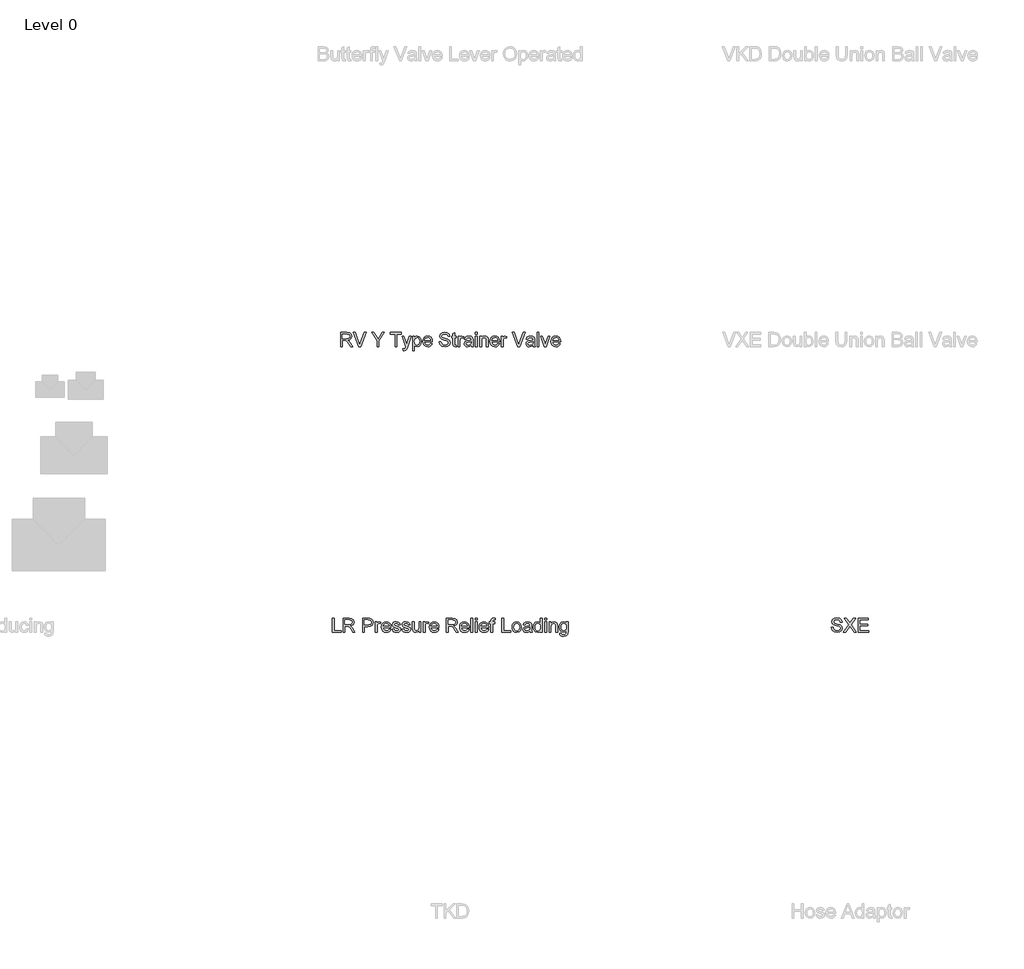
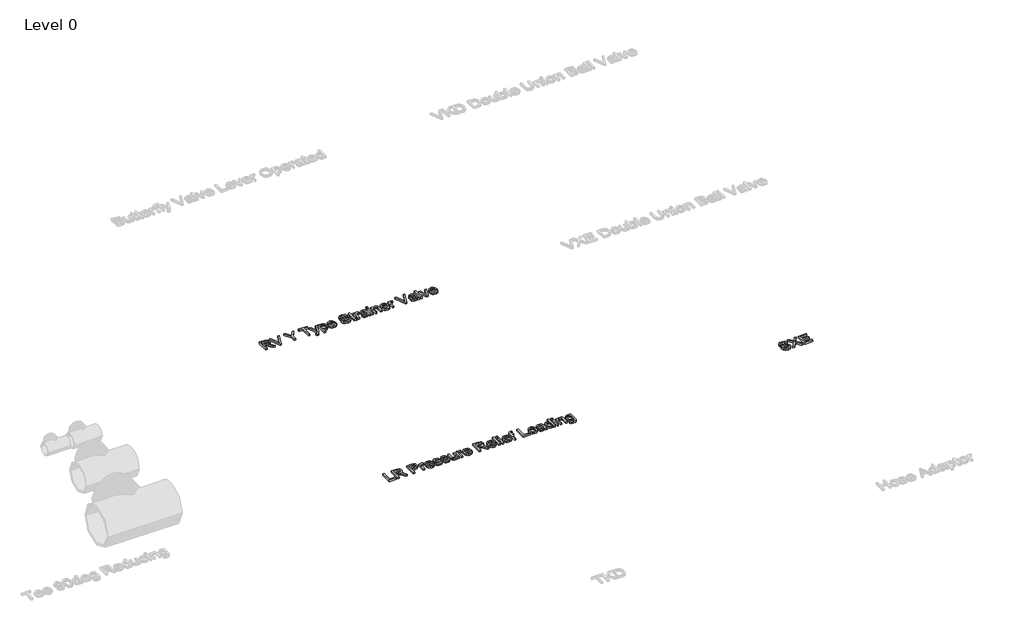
# One storey, part 9 of 12: 3 proxies.
"""IFC4 building model written with IfcOpenShell, lengths in millimetres."""

from ifc_helpers import new_model, si_unit, origin, origin_with_axes, place, context, project, spatial, polyline, outline, extrude, element, save

model = new_model("IFC4")

# Units and contexts
model_context = context("Model", 3, world=origin())
ifc_project = project(units=[si_unit("LENGTHUNIT", "METRE", prefix="MILLI")], contexts=[model_context])

# Site, building, storey
site = spatial("IfcSite", under=ifc_project)
building = spatial("IfcBuilding", under=site)
storey = spatial("IfcBuildingStorey", under=building, Name="Level 0", Elevation=0.0)

# Proxies
placement = place(None, origin())
element("IfcBuildingElementProxy", 1, Name="150mm Arial", ObjectType="150mm Arial", at=placement, inside=storey, context=model_context, shape_type="SweptSolid", body=[
    extrude(outline(polyline([(-8002.5823304, 6945.7253457), (-8002.5823304, 7044.1868842), (-7960.1544458, 7044.1868842), (-7940.4549266, 7041.5306342), (-7929.6856958, 7032.1315957), (-7925.6592535, 7017.2397688), (-7927.3269218, 7007.5402496), (-7932.3299266, 6999.4993842), (-7940.8185083, 6993.6039515), (-7952.9429073, 6990.3407304), (-7945.947715, 6985.0763073), (-7935.9717535, 6972.408038), (-7919.5534843, 6945.7253457), (-7933.8563689, 6945.7253457), (-7946.6688689, 6966.1339996), (-7955.9236766, 6979.643615), (-7962.4260804, 6986.0258265), (-7968.2794458, 6988.3695765), (-7975.4188689, 6988.8022688), (-7990.2746381, 6988.8022688), (-7990.2746381, 6945.7253457), (-8002.5823304, 6945.7253457)]), holes=[polyline([(-7990.2746381, 7001.1099611), (-7962.7265612, 7001.1099611), (-7948.6760804, 7002.8527496), (-7940.6953112, 7008.4296727), (-7937.9669458, 7016.783038), (-7943.1712727, 7027.6243842), (-7959.6255996, 7031.8791919), (-7990.2746381, 7031.8791919), (-7990.2746381, 7001.1099611)])]), origin_with_axes(), (0.0, 0.0, 1.0), 15.0),
    extrude(outline(polyline([(-7875.0342535, 6945.7253457), (-7914.2169458, 7044.1868842), (-7901.0438689, 7044.1868842), (-7874.8179073, 6973.2493842), (-7869.5054073, 6957.2638073), (-7864.2650227, 6973.2493842), (-7837.9669458, 7044.1868842), (-7824.7938689, 7044.1868842), (-7862.3179073, 6945.7253457), (-7875.0342535, 6945.7253457)])), origin_with_axes(), (0.0, 0.0, 1.0), 15.0),
    extrude(outline(polyline([(-7747.197715, 6945.7253457), (-7747.197715, 6987.4320765), (-7785.6592535, 7044.1868842), (-7771.1400227, 7044.1868842), (-7750.6111766, 7013.8743842), (-7740.1063689, 6998.4176534), (-7729.5775227, 7014.9801534), (-7710.947715, 7044.1868842), (-7696.4284843, 7044.1868842), (-7734.8900227, 6987.4320765), (-7734.8900227, 6945.7253457), (-7747.197715, 6945.7253457)])), origin_with_axes(), (0.0, 0.0, 1.0), 15.0),
    extrude(outline(polyline([(-7622.5823304, 6945.7253457), (-7622.5823304, 7031.8791919), (-7654.8900227, 7031.8791919), (-7654.8900227, 7044.1868842), (-7577.9669458, 7044.1868842), (-7577.9669458, 7031.8791919), (-7610.2746381, 7031.8791919), (-7610.2746381, 6945.7253457), (-7622.5823304, 6945.7253457)])), origin_with_axes(), (0.0, 0.0, 1.0), 15.0),
    extrude(outline(polyline([(-7565.6592535, 6918.033038), (-7567.197715, 6929.8839996), (-7560.947715, 6928.8022688), (-7555.1063689, 6930.1604419), (-7551.5246381, 6933.9464996), (-7548.1592535, 6943.0089996), (-7547.197715, 6945.9897688), (-7573.3515612, 7018.033038), (-7560.3707919, 7018.033038), (-7546.5005996, 6977.8888073), (-7541.6688689, 6961.831115), (-7536.8371381, 6976.0138073), (-7522.5823304, 7018.033038), (-7509.697715, 7018.033038), (-7534.8659843, 6943.9945765), (-7541.4044458, 6927.9368842), (-7548.5438689, 6919.2589996), (-7558.135215, 6916.4945765), (-7565.6592535, 6918.033038)])), origin_with_axes(), (0.0, 0.0, 1.0), 15.0),
    extrude(outline(polyline([(-7499.5054073, 6918.033038), (-7499.5054073, 7018.033038), (-7487.197715, 7018.033038), (-7487.197715, 7005.9657304), (-7478.6880996, 7016.1700573), (-7467.197715, 7019.5714996), (-7451.5967535, 7014.8118842), (-7441.4044458, 7001.3984227), (-7437.9669458, 6982.4320765), (-7441.8491573, 6962.4921727), (-7453.1231958, 6948.9104419), (-7468.6880996, 6944.1868842), (-7479.3972343, 6947.3479419), (-7487.197715, 6955.3407304), (-7487.197715, 6918.033038), (-7499.5054073, 6918.033038)]), holes=[polyline([(-7487.197715, 6981.3022688), (-7485.8665852, 6970.268615), (-7481.8731958, 6962.5522688), (-7475.9807679, 6958.0089996), (-7468.9525227, 6956.4945765), (-7461.8100948, 6958.0630861), (-7455.7674266, 6962.768615), (-7451.6478352, 6970.767413), (-7450.2746381, 6982.2157304), (-7451.6147823, 6993.189288), (-7455.635215, 7001.0138073), (-7461.5186285, 7005.7013073), (-7468.447715, 7007.2638073), (-7475.4038448, 7005.6021486), (-7481.5126189, 7000.6171727), (-7485.776441, 6992.4651294), (-7487.197715, 6981.3022688)])]), origin_with_axes(), (0.0, 0.0, 1.0), 15.0),
    extrude(outline(polyline([(-7373.4957919, 6967.2638073), (-7361.4284843, 6965.7253457), (-7365.776441, 6956.6327977), (-7372.7145419, 6949.8359227), (-7382.0865371, 6945.5991438), (-7393.7361766, 6944.1868842), (-7408.1772823, 6946.6237832), (-7419.2890612, 6953.9344804), (-7426.3743977, 6965.6442159), (-7428.7361766, 6981.2782304), (-7426.3503593, 6997.4380861), (-7419.1929073, 7009.5234227), (-7408.2313689, 7017.0594804), (-7394.4332919, 7019.5714996), (-7381.0649025, 7017.06549), (-7370.3828112, 7009.5474611), (-7363.3786044, 6997.486163), (-7361.0438689, 6981.3503457), (-7361.1159843, 6978.033038), (-7416.4284843, 6978.033038), (-7414.2980756, 6968.8202977), (-7409.3491573, 6962.0474611), (-7393.4957919, 6956.4945765), (-7381.4284843, 6959.0666919), (-7373.4957919, 6967.2638073)]), holes=[polyline([(-7416.4284843, 6990.3407304), (-7373.3515612, 6990.3407304), (-7378.2794458, 7001.4945765), (-7385.4549266, 7005.8214996), (-7394.4813689, 7007.2638073), (-7409.6376189, 7002.6604419), (-7416.4284843, 6990.3407304)])]), origin_with_axes(), (0.0, 0.0, 1.0), 15.0),
    extrude(outline(polyline([(-7313.3515612, 6979.5714996), (-7301.0438689, 6979.5714996), (-7297.0775227, 6967.251788), (-7287.3900227, 6959.4633265), (-7272.6304073, 6956.4945765), (-7259.7698304, 6958.7421727), (-7251.4645419, 6964.9200573), (-7248.7361766, 6973.1772688), (-7250.7794458, 6980.8575573), (-7259.1448304, 6986.4464996), (-7277.0655035, 6991.1460188), (-7296.3563689, 6997.2157304), (-7306.8251189, 7006.3743842), (-7310.2746381, 7018.6099611), (-7306.0078112, 7032.5402496), (-7293.5438689, 7042.3719804), (-7275.2986766, 7045.7253457), (-7255.8275227, 7042.2157304), (-7242.8467535, 7031.9032304), (-7237.9669458, 7016.4945765), (-7250.2746381, 7016.4945765), (-7257.2457919, 7029.1388073), (-7274.8179073, 7033.4176534), (-7292.4380996, 7029.1868842), (-7297.9669458, 7018.970538), (-7294.0486766, 7010.4368842), (-7273.9525227, 7003.5618842), (-7252.1736766, 6997.3839996), (-7240.2626189, 6987.408038), (-7236.4284843, 6973.4897688), (-7240.8395419, 6958.7662111), (-7253.5318496, 6948.0210188), (-7272.1496381, 6944.1868842), (-7294.1328112, 6948.3214996), (-7308.0390612, 6960.7734227), (-7313.3515612, 6979.5714996)])), origin_with_axes(), (0.0, 0.0, 1.0), 15.0),
    extrude(outline(polyline([(-7193.3515612, 6955.9897688), (-7191.8130996, 6945.3647688), (-7201.0198304, 6944.1868842), (-7211.3323304, 6946.2301534), (-7216.4765612, 6951.5907304), (-7217.9669458, 6965.5570765), (-7217.9669458, 7005.7253457), (-7227.197715, 7005.7253457), (-7227.197715, 7018.033038), (-7217.9669458, 7018.033038), (-7217.9669458, 7035.6051534), (-7205.6592535, 7042.8407304), (-7205.6592535, 7018.033038), (-7193.3515612, 7018.033038), (-7193.3515612, 7005.7253457), (-7205.6592535, 7005.7253457), (-7205.6592535, 6965.9176534), (-7205.010215, 6959.5714996), (-7202.9068496, 6957.3239034), (-7198.7121381, 6956.4945765), (-7193.3515612, 6955.9897688)])), origin_with_axes(), (0.0, 0.0, 1.0), 15.0),
    extrude(outline(polyline([(-7181.0438689, 6945.7253457), (-7181.0438689, 7018.033038), (-7170.2746381, 7018.033038), (-7170.2746381, 7007.3359227), (-7162.6304073, 7017.1916919), (-7154.9380996, 7019.5714996), (-7142.5823304, 7015.7734227), (-7146.6929073, 7004.7397688), (-7155.3467535, 7007.2638073), (-7162.3058881, 7004.8359227), (-7166.7409843, 6998.1051534), (-7168.7361766, 6983.7301534), (-7168.7361766, 6945.7253457), (-7181.0438689, 6945.7253457)])), origin_with_axes(), (0.0, 0.0, 1.0), 15.0),
    extrude(outline(polyline([(-7088.7361766, 6954.956115), (-7100.6712727, 6946.6147688), (-7113.8563689, 6944.1868842), (-7124.1418256, 6945.6472207), (-7131.728965, 6950.0282304), (-7136.4074506, 6956.6808746), (-7137.9669458, 6964.956115), (-7135.6111766, 6974.6916919), (-7129.4212727, 6981.7589996), (-7120.8034843, 6985.7974611), (-7110.1544458, 6987.6484227), (-7088.8082919, 6991.8791919), (-7088.7361766, 6994.6195765), (-7092.1255996, 7003.706115), (-7105.7313689, 7007.2638073), (-7118.1832919, 7004.8960188), (-7124.1207919, 6996.4945765), (-7136.4284843, 6998.033038), (-7131.103965, 7010.0522688), (-7120.3828112, 7017.095538), (-7104.1448304, 7019.5714996), (-7089.228965, 7017.3839996), (-7080.8034843, 7011.8912111), (-7077.0294458, 7003.5378457), (-7076.4284843, 6992.768615), (-7076.4284843, 6977.456115), (-7075.8034843, 6956.0739034), (-7073.3515612, 6945.7253457), (-7085.6592535, 6945.7253457), (-7088.7361766, 6954.956115)]), holes=[polyline([(-7088.7361766, 6979.5714996), (-7108.5919458, 6975.7974611), (-7119.1808881, 6973.8022688), (-7123.9765612, 6970.5570765), (-7125.6592535, 6965.8214996), (-7121.9933881, 6959.1628457), (-7111.2361766, 6956.4945765), (-7098.7842535, 6959.439288), (-7090.7554073, 6966.5666919), (-7088.8082919, 6976.0859227), (-7088.7361766, 6979.5714996)])]), origin_with_axes(), (0.0, 0.0, 1.0), 15.0),
    extrude(outline(polyline([(-7059.5054073, 6945.7253457), (-7059.5054073, 7018.033038), (-7047.197715, 7018.033038), (-7047.197715, 6945.7253457), (-7059.5054073, 6945.7253457)])), origin_with_axes(), (0.0, 0.0, 1.0), 15.0),
    extrude(outline(polyline([(-7059.5054073, 7031.8791919), (-7059.5054073, 7044.1868842), (-7047.197715, 7044.1868842), (-7047.197715, 7031.8791919), (-7059.5054073, 7031.8791919)])), origin_with_axes(), (0.0, 0.0, 1.0), 15.0),
    extrude(outline(polyline([(-7028.7361766, 6945.7253457), (-7028.7361766, 7018.033038), (-7016.4284843, 7018.033038), (-7016.4284843, 7007.9368842), (-7007.0174266, 7016.6628457), (-6994.1688689, 7019.5714996), (-6982.5462727, 7017.2277496), (-6974.6135804, 7011.0739034), (-6970.9236766, 7002.0234227), (-6970.2746381, 6990.1243842), (-6970.2746381, 6945.7253457), (-6982.5823304, 6945.7253457), (-6982.5823304, 6988.4657304), (-6984.0005996, 6999.3551534), (-6989.0126189, 7005.112365), (-6997.4621381, 7007.2638073), (-7010.8155035, 7002.4320765), (-7015.0252391, 6995.4308746), (-7016.4284843, 6984.0907304), (-7016.4284843, 6945.7253457), (-7028.7361766, 6945.7253457)])), origin_with_axes(), (0.0, 0.0, 1.0), 15.0),
    extrude(outline(polyline([(-6902.7265612, 6967.2638073), (-6890.6592535, 6965.7253457), (-6895.0072102, 6956.6327977), (-6901.9453112, 6949.8359227), (-6911.3173064, 6945.5991438), (-6922.9669458, 6944.1868842), (-6937.4080516, 6946.6237832), (-6948.5198304, 6953.9344804), (-6955.6051669, 6965.6442159), (-6957.9669458, 6981.2782304), (-6955.5811285, 6997.4380861), (-6948.4236766, 7009.5234227), (-6937.4621381, 7017.0594804), (-6923.6640612, 7019.5714996), (-6910.2956718, 7017.06549), (-6899.6135804, 7009.5474611), (-6892.6093737, 6997.486163), (-6890.2746381, 6981.3503457), (-6890.3467535, 6978.033038), (-6945.6592535, 6978.033038), (-6943.5288448, 6968.8202977), (-6938.5799266, 6962.0474611), (-6922.7265612, 6956.4945765), (-6910.6592535, 6959.0666919), (-6902.7265612, 6967.2638073)]), holes=[polyline([(-6945.6592535, 6990.3407304), (-6902.5823304, 6990.3407304), (-6907.510215, 7001.4945765), (-6914.6856958, 7005.8214996), (-6923.7121381, 7007.2638073), (-6938.8683881, 7002.6604419), (-6945.6592535, 6990.3407304)])]), origin_with_axes(), (0.0, 0.0, 1.0), 15.0),
    extrude(outline(polyline([(-6877.9669458, 6945.7253457), (-6877.9669458, 7018.033038), (-6867.197715, 7018.033038), (-6867.197715, 7007.3359227), (-6859.5534843, 7017.1916919), (-6851.8611766, 7019.5714996), (-6839.5054073, 7015.7734227), (-6843.6159843, 7004.7397688), (-6852.2698304, 7007.2638073), (-6859.228965, 7004.8359227), (-6863.6640612, 6998.1051534), (-6865.6592535, 6983.7301534), (-6865.6592535, 6945.7253457), (-6877.9669458, 6945.7253457)])), origin_with_axes(), (0.0, 0.0, 1.0), 15.0),
    extrude(outline(polyline([(-6762.7265612, 6945.7253457), (-6801.9092535, 7044.1868842), (-6788.7361766, 7044.1868842), (-6762.510215, 6973.2493842), (-6757.197715, 6957.2638073), (-6751.9573304, 6973.2493842), (-6725.6592535, 7044.1868842), (-6712.4861766, 7044.1868842), (-6750.010215, 6945.7253457), (-6762.7265612, 6945.7253457)])), origin_with_axes(), (0.0, 0.0, 1.0), 15.0),
    extrude(outline(polyline([(-6656.4284843, 6954.956115), (-6668.3635804, 6946.6147688), (-6681.5486766, 6944.1868842), (-6691.8341333, 6945.6472207), (-6699.4212727, 6950.0282304), (-6704.0997583, 6956.6808746), (-6705.6592535, 6964.956115), (-6703.3034843, 6974.6916919), (-6697.1135804, 6981.7589996), (-6688.4957919, 6985.7974611), (-6677.8467535, 6987.6484227), (-6656.5005996, 6991.8791919), (-6656.4284843, 6994.6195765), (-6659.8179073, 7003.706115), (-6673.4236766, 7007.2638073), (-6685.8755996, 7004.8960188), (-6691.8130996, 6996.4945765), (-6704.1207919, 6998.033038), (-6698.7962727, 7010.0522688), (-6688.0751189, 7017.095538), (-6671.8371381, 7019.5714996), (-6656.9212727, 7017.3839996), (-6648.4957919, 7011.8912111), (-6644.7217535, 7003.5378457), (-6644.1207919, 6992.768615), (-6644.1207919, 6977.456115), (-6643.4957919, 6956.0739034), (-6641.0438689, 6945.7253457), (-6653.3515612, 6945.7253457), (-6656.4284843, 6954.956115)]), holes=[polyline([(-6656.4284843, 6979.5714996), (-6676.2842535, 6975.7974611), (-6686.8731958, 6973.8022688), (-6691.6688689, 6970.5570765), (-6693.3515612, 6965.8214996), (-6689.6856958, 6959.1628457), (-6678.9284843, 6956.4945765), (-6666.4765612, 6959.439288), (-6658.447715, 6966.5666919), (-6656.5005996, 6976.0859227), (-6656.4284843, 6979.5714996)])]), origin_with_axes(), (0.0, 0.0, 1.0), 15.0),
    extrude(outline(polyline([(-6627.197715, 6945.7253457), (-6627.197715, 7044.1868842), (-6614.8900227, 7044.1868842), (-6614.8900227, 6945.7253457), (-6627.197715, 6945.7253457)])), origin_with_axes(), (0.0, 0.0, 1.0), 15.0),
    extrude(outline(polyline([(-6578.6880996, 6945.7253457), (-6604.1207919, 7018.033038), (-6591.0919458, 7018.033038), (-6575.6832919, 6974.7157304), (-6571.0438689, 6960.1484227), (-6566.5005996, 6973.8984227), (-6550.9957919, 7018.033038), (-6537.9669458, 7018.033038), (-6563.0871381, 6945.7253457), (-6578.6880996, 6945.7253457)])), origin_with_axes(), (0.0, 0.0, 1.0), 15.0),
    extrude(outline(polyline([(-6476.572715, 6967.2638073), (-6464.5054073, 6965.7253457), (-6468.8533641, 6956.6327977), (-6475.791465, 6949.8359227), (-6485.1634602, 6945.5991438), (-6496.8130996, 6944.1868842), (-6511.2542054, 6946.6237832), (-6522.3659843, 6953.9344804), (-6529.4513208, 6965.6442159), (-6531.8130996, 6981.2782304), (-6529.4272823, 6997.4380861), (-6522.2698304, 7009.5234227), (-6511.3082919, 7017.0594804), (-6497.510215, 7019.5714996), (-6484.1418256, 7017.06549), (-6473.4597343, 7009.5474611), (-6466.4555275, 6997.486163), (-6464.1207919, 6981.3503457), (-6464.1929073, 6978.033038), (-6519.5054073, 6978.033038), (-6517.3749987, 6968.8202977), (-6512.4260804, 6962.0474611), (-6496.572715, 6956.4945765), (-6484.5054073, 6959.0666919), (-6476.572715, 6967.2638073)]), holes=[polyline([(-6519.5054073, 6990.3407304), (-6476.4284843, 6990.3407304), (-6481.3563689, 7001.4945765), (-6488.5318496, 7005.8214996), (-6497.5582919, 7007.2638073), (-6512.7145419, 7002.6604419), (-6519.5054073, 6990.3407304)])]), origin_with_axes(), (0.0, 0.0, 1.0), 15.0),
])
element("IfcBuildingElementProxy", 2, Name="150mm Arial", ObjectType="150mm Arial", at=placement, inside=storey, context=model_context, shape_type="SweptSolid", body=[
    extrude(outline(polyline([(-8061.8130996, 4945.7253457), (-8061.8130996, 5044.1868842), (-8049.5054073, 5044.1868842), (-8049.5054073, 4958.033038), (-8000.2746381, 4958.033038), (-8000.2746381, 4945.7253457), (-8061.8130996, 4945.7253457)])), origin_with_axes(), (0.0, 0.0, 1.0), 15.0),
    extrude(outline(polyline([(-7986.4284843, 4945.7253457), (-7986.4284843, 5044.1868842), (-7944.0005996, 5044.1868842), (-7924.3010804, 5041.5306342), (-7913.5318496, 5032.1315957), (-7909.5054073, 5017.2397688), (-7911.1730756, 5007.5402496), (-7916.1760804, 4999.4993842), (-7924.6646621, 4993.6039515), (-7936.7890612, 4990.3407304), (-7929.7938689, 4985.0763073), (-7919.8179073, 4972.408038), (-7903.3996381, 4945.7253457), (-7917.7025227, 4945.7253457), (-7930.5150227, 4966.1339996), (-7939.7698304, 4979.643615), (-7946.2722343, 4986.0258265), (-7952.1255996, 4988.3695765), (-7959.2650227, 4988.8022688), (-7974.1207919, 4988.8022688), (-7974.1207919, 4945.7253457), (-7986.4284843, 4945.7253457)]), holes=[polyline([(-7974.1207919, 5001.1099611), (-7946.572715, 5001.1099611), (-7932.5222343, 5002.8527496), (-7924.541465, 5008.4296727), (-7921.8130996, 5016.783038), (-7927.0174266, 5027.6243842), (-7943.4717535, 5031.8791919), (-7974.1207919, 5031.8791919), (-7974.1207919, 5001.1099611)])]), origin_with_axes(), (0.0, 0.0, 1.0), 15.0),
    extrude(outline(polyline([(-7849.5054073, 4945.7253457), (-7849.5054073, 5044.1868842), (-7813.0150227, 5044.1868842), (-7798.3034843, 5043.2493842), (-7786.3443496, 5038.6460188), (-7778.5919458, 5029.126788), (-7775.6592535, 5015.7013073), (-7777.6394218, 5004.09674), (-7783.5799266, 4994.4272688), (-7794.6887006, 4987.9008265), (-7812.1736766, 4985.7253457), (-7837.197715, 4985.7253457), (-7837.197715, 4945.7253457), (-7849.5054073, 4945.7253457)]), holes=[polyline([(-7837.197715, 4998.033038), (-7811.4525227, 4998.033038), (-7793.3275227, 5002.5522688), (-7789.30709, 5007.9909707), (-7787.9669458, 5015.268615), (-7791.1280035, 5025.4609227), (-7799.4332919, 5031.0378457), (-7811.7409843, 5031.8791919), (-7837.197715, 5031.8791919), (-7837.197715, 4998.033038)])]), origin_with_axes(), (0.0, 0.0, 1.0), 15.0),
    extrude(outline(polyline([(-7760.2746381, 4945.7253457), (-7760.2746381, 5018.033038), (-7749.5054073, 5018.033038), (-7749.5054073, 5007.3359227), (-7741.8611766, 5017.1916919), (-7734.1688689, 5019.5714996), (-7721.8130996, 5015.7734227), (-7725.9236766, 5004.7397688), (-7734.5775227, 5007.2638073), (-7741.5366573, 5004.8359227), (-7745.9717535, 4998.1051534), (-7747.9669458, 4983.7301534), (-7747.9669458, 4945.7253457), (-7760.2746381, 4945.7253457)])), origin_with_axes(), (0.0, 0.0, 1.0), 15.0),
    extrude(outline(polyline([(-7663.4957919, 4967.2638073), (-7651.4284843, 4965.7253457), (-7655.776441, 4956.6327977), (-7662.7145419, 4949.8359227), (-7672.0865371, 4945.5991438), (-7683.7361766, 4944.1868842), (-7698.1772823, 4946.6237832), (-7709.2890612, 4953.9344804), (-7716.3743977, 4965.6442159), (-7718.7361766, 4981.2782304), (-7716.3503593, 4997.4380861), (-7709.1929073, 5009.5234227), (-7698.2313689, 5017.0594804), (-7684.4332919, 5019.5714996), (-7671.0649025, 5017.06549), (-7660.3828112, 5009.5474611), (-7653.3786044, 4997.486163), (-7651.0438689, 4981.3503457), (-7651.1159843, 4978.033038), (-7706.4284843, 4978.033038), (-7704.2980756, 4968.8202977), (-7699.3491573, 4962.0474611), (-7683.4957919, 4956.4945765), (-7671.4284843, 4959.0666919), (-7663.4957919, 4967.2638073)]), holes=[polyline([(-7706.4284843, 4990.3407304), (-7663.3515612, 4990.3407304), (-7668.2794458, 5001.4945765), (-7675.4549266, 5005.8214996), (-7684.4813689, 5007.2638073), (-7699.6376189, 5002.6604419), (-7706.4284843, 4990.3407304)])]), origin_with_axes(), (0.0, 0.0, 1.0), 15.0),
    extrude(outline(polyline([(-7643.3515612, 4967.2638073), (-7631.0438689, 4968.8022688), (-7625.3467535, 4959.6676534), (-7612.2938689, 4956.4945765), (-7599.7457919, 4959.4032304), (-7595.6592535, 4966.2301534), (-7599.7698304, 4971.7589996), (-7612.4380996, 4975.268615), (-7630.9717535, 4981.2902496), (-7639.0606958, 4988.3214996), (-7641.8130996, 4998.2493842), (-7639.6015612, 5007.4200573), (-7633.5679073, 5014.4272688), (-7625.7433881, 5018.0690957), (-7615.1544458, 5019.5714996), (-7600.1784843, 5017.1556342), (-7590.6592535, 5010.6171727), (-7586.4284843, 4999.5714996), (-7598.7361766, 4998.033038), (-7603.3635804, 5004.8239034), (-7614.1929073, 5007.2638073), (-7625.9717535, 5004.9320765), (-7629.5054073, 4999.4993842), (-7628.0390612, 4995.9176534), (-7623.447715, 4993.2013073), (-7612.8467535, 4990.581115), (-7594.7818496, 4984.7878457), (-7586.3924266, 4978.2253457), (-7583.3515612, 4967.5282304), (-7586.9212727, 4955.7493842), (-7597.2217535, 4947.2037111), (-7612.4621381, 4944.1868842), (-7624.8719939, 4945.6412111), (-7633.9284843, 4950.0041919), (-7639.9741573, 4957.2277496), (-7643.3515612, 4967.2638073)])), origin_with_axes(), (0.0, 0.0, 1.0), 15.0),
    extrude(outline(polyline([(-7574.1207919, 4967.2638073), (-7561.8130996, 4968.8022688), (-7556.1159843, 4959.6676534), (-7543.0630996, 4956.4945765), (-7530.5150227, 4959.4032304), (-7526.4284843, 4966.2301534), (-7530.5390612, 4971.7589996), (-7543.2073304, 4975.268615), (-7561.7409843, 4981.2902496), (-7569.8299266, 4988.3214996), (-7572.5823304, 4998.2493842), (-7570.3707919, 5007.4200573), (-7564.3371381, 5014.4272688), (-7556.5126189, 5018.0690957), (-7545.9236766, 5019.5714996), (-7530.947715, 5017.1556342), (-7521.4284843, 5010.6171727), (-7517.197715, 4999.5714996), (-7529.5054073, 4998.033038), (-7534.1328112, 5004.8239034), (-7544.9621381, 5007.2638073), (-7556.7409843, 5004.9320765), (-7560.2746381, 4999.4993842), (-7558.8082919, 4995.9176534), (-7554.2169458, 4993.2013073), (-7543.6159843, 4990.581115), (-7525.5510804, 4984.7878457), (-7517.1616573, 4978.2253457), (-7514.1207919, 4967.5282304), (-7517.6905035, 4955.7493842), (-7527.9909843, 4947.2037111), (-7543.2313689, 4944.1868842), (-7555.6412246, 4945.6412111), (-7564.697715, 4950.0041919), (-7570.7433881, 4957.2277496), (-7574.1207919, 4967.2638073)])), origin_with_axes(), (0.0, 0.0, 1.0), 15.0),
    extrude(outline(polyline([(-7454.1207919, 4945.7253457), (-7454.1207919, 4958.1532304), (-7463.760215, 4947.6784707), (-7476.3323304, 4944.1868842), (-7487.9068496, 4946.6388073), (-7495.8876189, 4952.7926534), (-7499.5534843, 4961.8551534), (-7500.2746381, 4973.2974611), (-7500.2746381, 5018.033038), (-7487.9669458, 5018.033038), (-7487.9669458, 4979.0907304), (-7487.2217535, 4966.5426534), (-7482.353965, 4959.174865), (-7473.1832919, 4956.4945765), (-7462.9068496, 4959.2349611), (-7456.1159843, 4966.6989034), (-7454.1207919, 4980.4128457), (-7454.1207919, 5018.033038), (-7441.8130996, 5018.033038), (-7441.8130996, 4945.7253457), (-7454.1207919, 4945.7253457)])), origin_with_axes(), (0.0, 0.0, 1.0), 15.0),
    extrude(outline(polyline([(-7424.8900227, 4945.7253457), (-7424.8900227, 5018.033038), (-7414.1207919, 5018.033038), (-7414.1207919, 5007.3359227), (-7406.4765612, 5017.1916919), (-7398.7842535, 5019.5714996), (-7386.4284843, 5015.7734227), (-7390.5390612, 5004.7397688), (-7399.1929073, 5007.2638073), (-7406.1520419, 5004.8359227), (-7410.5871381, 4998.1051534), (-7412.5823304, 4983.7301534), (-7412.5823304, 4945.7253457), (-7424.8900227, 4945.7253457)])), origin_with_axes(), (0.0, 0.0, 1.0), 15.0),
    extrude(outline(polyline([(-7328.1111766, 4967.2638073), (-7316.0438689, 4965.7253457), (-7320.3918256, 4956.6327977), (-7327.3299266, 4949.8359227), (-7336.7019218, 4945.5991438), (-7348.3515612, 4944.1868842), (-7362.7926669, 4946.6237832), (-7373.9044458, 4953.9344804), (-7380.9897823, 4965.6442159), (-7383.3515612, 4981.2782304), (-7380.9657439, 4997.4380861), (-7373.8082919, 5009.5234227), (-7362.8467535, 5017.0594804), (-7349.0486766, 5019.5714996), (-7335.6802871, 5017.06549), (-7324.9981958, 5009.5474611), (-7317.9939891, 4997.486163), (-7315.6592535, 4981.3503457), (-7315.7313689, 4978.033038), (-7371.0438689, 4978.033038), (-7368.9134602, 4968.8202977), (-7363.9645419, 4962.0474611), (-7348.1111766, 4956.4945765), (-7336.0438689, 4959.0666919), (-7328.1111766, 4967.2638073)]), holes=[polyline([(-7371.0438689, 4990.3407304), (-7327.9669458, 4990.3407304), (-7332.8948304, 5001.4945765), (-7340.0703112, 5005.8214996), (-7349.0967535, 5007.2638073), (-7364.2530035, 5002.6604419), (-7371.0438689, 4990.3407304)])]), origin_with_axes(), (0.0, 0.0, 1.0), 15.0),
    extrude(outline(polyline([(-7263.3515612, 4945.7253457), (-7263.3515612, 5044.1868842), (-7220.9236766, 5044.1868842), (-7201.2241573, 5041.5306342), (-7190.4549266, 5032.1315957), (-7186.4284843, 5017.2397688), (-7188.0961525, 5007.5402496), (-7193.0991573, 4999.4993842), (-7201.5877391, 4993.6039515), (-7213.7121381, 4990.3407304), (-7206.7169458, 4985.0763073), (-7196.7409843, 4972.408038), (-7180.322715, 4945.7253457), (-7194.6255996, 4945.7253457), (-7207.4380996, 4966.1339996), (-7216.6929073, 4979.643615), (-7223.1953112, 4986.0258265), (-7229.0486766, 4988.3695765), (-7236.1880996, 4988.8022688), (-7251.0438689, 4988.8022688), (-7251.0438689, 4945.7253457), (-7263.3515612, 4945.7253457)]), holes=[polyline([(-7251.0438689, 5001.1099611), (-7223.4957919, 5001.1099611), (-7209.4453112, 5002.8527496), (-7201.4645419, 5008.4296727), (-7198.7361766, 5016.783038), (-7203.9405035, 5027.6243842), (-7220.3948304, 5031.8791919), (-7251.0438689, 5031.8791919), (-7251.0438689, 5001.1099611)])]), origin_with_axes(), (0.0, 0.0, 1.0), 15.0),
    extrude(outline(polyline([(-7115.8034843, 4967.2638073), (-7103.7361766, 4965.7253457), (-7108.0841333, 4956.6327977), (-7115.0222343, 4949.8359227), (-7124.3942294, 4945.5991438), (-7136.0438689, 4944.1868842), (-7150.4849746, 4946.6237832), (-7161.5967535, 4953.9344804), (-7168.68209, 4965.6442159), (-7171.0438689, 4981.2782304), (-7168.6580516, 4997.4380861), (-7161.5005996, 5009.5234227), (-7150.5390612, 5017.0594804), (-7136.7409843, 5019.5714996), (-7123.3725948, 5017.06549), (-7112.6905035, 5009.5474611), (-7105.6862968, 4997.486163), (-7103.3515612, 4981.3503457), (-7103.4236766, 4978.033038), (-7158.7361766, 4978.033038), (-7156.6057679, 4968.8202977), (-7151.6568496, 4962.0474611), (-7135.8034843, 4956.4945765), (-7123.7361766, 4959.0666919), (-7115.8034843, 4967.2638073)]), holes=[polyline([(-7158.7361766, 4990.3407304), (-7115.6592535, 4990.3407304), (-7120.5871381, 5001.4945765), (-7127.7626189, 5005.8214996), (-7136.7890612, 5007.2638073), (-7151.9453112, 5002.6604419), (-7158.7361766, 4990.3407304)])]), origin_with_axes(), (0.0, 0.0, 1.0), 15.0),
    extrude(outline(polyline([(-7091.0438689, 4945.7253457), (-7091.0438689, 5044.1868842), (-7078.7361766, 5044.1868842), (-7078.7361766, 4945.7253457), (-7091.0438689, 4945.7253457)])), origin_with_axes(), (0.0, 0.0, 1.0), 15.0),
    extrude(outline(polyline([(-7060.2746381, 4945.7253457), (-7060.2746381, 5018.033038), (-7047.9669458, 5018.033038), (-7047.9669458, 4945.7253457), (-7060.2746381, 4945.7253457)])), origin_with_axes(), (0.0, 0.0, 1.0), 15.0),
    extrude(outline(polyline([(-7060.2746381, 5031.8791919), (-7060.2746381, 5044.1868842), (-7047.9669458, 5044.1868842), (-7047.9669458, 5031.8791919), (-7060.2746381, 5031.8791919)])), origin_with_axes(), (0.0, 0.0, 1.0), 15.0),
    extrude(outline(polyline([(-6978.8804073, 4967.2638073), (-6966.8130996, 4965.7253457), (-6971.1610564, 4956.6327977), (-6978.0991573, 4949.8359227), (-6987.4711525, 4945.5991438), (-6999.1207919, 4944.1868842), (-7013.5618977, 4946.6237832), (-7024.6736766, 4953.9344804), (-7031.7590131, 4965.6442159), (-7034.1207919, 4981.2782304), (-7031.7349746, 4997.4380861), (-7024.5775227, 5009.5234227), (-7013.6159843, 5017.0594804), (-6999.8179073, 5019.5714996), (-6986.4495179, 5017.06549), (-6975.7674266, 5009.5474611), (-6968.7632198, 4997.486163), (-6966.4284843, 4981.3503457), (-6966.5005996, 4978.033038), (-7021.8130996, 4978.033038), (-7019.682691, 4968.8202977), (-7014.7337727, 4962.0474611), (-6998.8804073, 4956.4945765), (-6986.8130996, 4959.0666919), (-6978.8804073, 4967.2638073)]), holes=[polyline([(-7021.8130996, 4990.3407304), (-6978.7361766, 4990.3407304), (-6983.6640612, 5001.4945765), (-6990.8395419, 5005.8214996), (-6999.8659843, 5007.2638073), (-7015.0222343, 5002.6604419), (-7021.8130996, 4990.3407304)])]), origin_with_axes(), (0.0, 0.0, 1.0), 15.0),
    extrude(outline(polyline([(-6951.0438689, 4945.7253457), (-6951.0438689, 5005.7253457), (-6961.8130996, 5005.7253457), (-6961.8130996, 5018.033038), (-6951.0438689, 5018.033038), (-6951.0438689, 5025.3166919), (-6949.7457919, 5035.581115), (-6943.447715, 5042.9128457), (-6931.0438689, 5045.7253457), (-6919.8179073, 5044.3791919), (-6921.6207919, 5032.8407304), (-6928.7121381, 5033.4176534), (-6936.4645419, 5031.3743842), (-6938.7361766, 5023.7541919), (-6938.7361766, 5018.033038), (-6924.8900227, 5018.033038), (-6924.8900227, 5005.7253457), (-6938.7361766, 5005.7253457), (-6938.7361766, 4945.7253457), (-6951.0438689, 4945.7253457)])), origin_with_axes(), (0.0, 0.0, 1.0), 15.0),
    extrude(outline(polyline([(-6874.1207919, 4945.7253457), (-6874.1207919, 5044.1868842), (-6861.8130996, 5044.1868842), (-6861.8130996, 4958.033038), (-6812.5823304, 4958.033038), (-6812.5823304, 4945.7253457), (-6874.1207919, 4945.7253457)])), origin_with_axes(), (0.0, 0.0, 1.0), 15.0),
    extrude(outline(polyline([(-6803.3515612, 4981.8791919), (-6800.6893016, 4999.3130861), (-6792.7025227, 5011.5666919), (-6782.8347343, 5017.5702977), (-6771.0198304, 5019.5714996), (-6758.0901429, 5017.1346005), (-6747.7626189, 5009.8239034), (-6740.9927871, 4998.2163313), (-6738.7361766, 4982.8888073), (-6742.7265612, 4960.9897688), (-6754.3491573, 4948.5979419), (-6771.0198304, 4944.1868842), (-6784.1057679, 4946.6147688), (-6794.4212727, 4953.8984227), (-6801.1189891, 4965.7493842), (-6803.3515612, 4981.8791919)]), holes=[polyline([(-6791.0438689, 4981.9032304), (-6789.61959, 4970.7644082), (-6785.3467535, 4962.8287111), (-6778.916465, 4958.0781102), (-6771.0198304, 4956.4945765), (-6763.1592535, 4958.0871246), (-6756.7409843, 4962.8647688), (-6752.4681477, 4970.9056342), (-6751.0438689, 4982.2878457), (-6752.4771621, 4993.1021486), (-6756.7770419, 5000.9296727), (-6763.2043256, 5005.6802736), (-6771.0198304, 5007.2638073), (-6778.916465, 5005.6862832), (-6785.3467535, 5000.9537111), (-6789.61959, 4993.0360429), (-6791.0438689, 4981.9032304)])]), origin_with_axes(), (0.0, 0.0, 1.0), 15.0),
    extrude(outline(polyline([(-6678.7361766, 4954.956115), (-6690.6712727, 4946.6147688), (-6703.8563689, 4944.1868842), (-6714.1418256, 4945.6472207), (-6721.728965, 4950.0282304), (-6726.4074506, 4956.6808746), (-6727.9669458, 4964.956115), (-6725.6111766, 4974.6916919), (-6719.4212727, 4981.7589996), (-6710.8034843, 4985.7974611), (-6700.1544458, 4987.6484227), (-6678.8082919, 4991.8791919), (-6678.7361766, 4994.6195765), (-6682.1255996, 5003.706115), (-6695.7313689, 5007.2638073), (-6708.1832919, 5004.8960188), (-6714.1207919, 4996.4945765), (-6726.4284843, 4998.033038), (-6721.103965, 5010.0522688), (-6710.3828112, 5017.095538), (-6694.1448304, 5019.5714996), (-6679.228965, 5017.3839996), (-6670.8034843, 5011.8912111), (-6667.0294458, 5003.5378457), (-6666.4284843, 4992.768615), (-6666.4284843, 4977.456115), (-6665.8034843, 4956.0739034), (-6663.3515612, 4945.7253457), (-6675.6592535, 4945.7253457), (-6678.7361766, 4954.956115)]), holes=[polyline([(-6678.7361766, 4979.5714996), (-6698.5919458, 4975.7974611), (-6709.1808881, 4973.8022688), (-6713.9765612, 4970.5570765), (-6715.6592535, 4965.8214996), (-6711.9933881, 4959.1628457), (-6701.2361766, 4956.4945765), (-6688.7842535, 4959.439288), (-6680.7554073, 4966.5666919), (-6678.8082919, 4976.0859227), (-6678.7361766, 4979.5714996)])]), origin_with_axes(), (0.0, 0.0, 1.0), 15.0),
    extrude(outline(polyline([(-6604.8900227, 4945.7253457), (-6604.8900227, 4957.3359227), (-6613.0330516, 4947.4741438), (-6624.2890612, 4944.1868842), (-6639.5294458, 4948.9464996), (-6650.2986766, 4962.2277496), (-6654.1207919, 4981.8070765), (-6650.5991573, 5001.3984227), (-6640.0462727, 5014.8839996), (-6624.3371381, 5019.5714996), (-6612.9909843, 5016.2181342), (-6604.8900227, 5007.5041919), (-6604.8900227, 5044.1868842), (-6592.5823304, 5044.1868842), (-6592.5823304, 4945.7253457), (-6604.8900227, 4945.7253457)]), holes=[polyline([(-6641.8130996, 4981.8551534), (-6640.4248785, 4970.7223409), (-6636.260215, 4962.8046727), (-6630.2085323, 4958.0721005), (-6623.1592535, 4956.4945765), (-6616.1129794, 4957.9999852), (-6610.2145419, 4962.5162111), (-6606.2211525, 4970.127389), (-6604.8900227, 4980.9176534), (-6606.245191, 4992.7145284), (-6610.3106958, 5000.893615), (-6616.3593737, 5005.6712592), (-6623.6640612, 5007.2638073), (-6630.7854554, 5005.7343602), (-6636.6207919, 5001.1460188), (-6640.5150227, 4993.2644082), (-6641.8130996, 4981.8551534)])]), origin_with_axes(), (0.0, 0.0, 1.0), 15.0),
    extrude(outline(polyline([(-6574.1207919, 4945.7253457), (-6574.1207919, 5018.033038), (-6561.8130996, 5018.033038), (-6561.8130996, 4945.7253457), (-6574.1207919, 4945.7253457)])), origin_with_axes(), (0.0, 0.0, 1.0), 15.0),
    extrude(outline(polyline([(-6574.1207919, 5031.8791919), (-6574.1207919, 5044.1868842), (-6561.8130996, 5044.1868842), (-6561.8130996, 5031.8791919), (-6574.1207919, 5031.8791919)])), origin_with_axes(), (0.0, 0.0, 1.0), 15.0),
    extrude(outline(polyline([(-6543.3515612, 4945.7253457), (-6543.3515612, 5018.033038), (-6531.0438689, 5018.033038), (-6531.0438689, 5007.9368842), (-6521.6328112, 5016.6628457), (-6508.7842535, 5019.5714996), (-6497.1616573, 5017.2277496), (-6489.228965, 5011.0739034), (-6485.5390612, 5002.0234227), (-6484.8900227, 4990.1243842), (-6484.8900227, 4945.7253457), (-6497.197715, 4945.7253457), (-6497.197715, 4988.4657304), (-6498.6159843, 4999.3551534), (-6503.6280035, 5005.112365), (-6512.0775227, 5007.2638073), (-6525.4308881, 5002.4320765), (-6529.6406237, 4995.4308746), (-6531.0438689, 4984.0907304), (-6531.0438689, 4945.7253457), (-6543.3515612, 4945.7253457)])), origin_with_axes(), (0.0, 0.0, 1.0), 15.0),
    extrude(outline(polyline([(-6471.0438689, 4939.5714996), (-6458.7361766, 4938.033038), (-6454.7457919, 4931.5426534), (-6442.7986766, 4928.8022688), (-6430.2025227, 4931.9032304), (-6424.1929073, 4940.6051534), (-6423.3515612, 4954.956115), (-6432.0174266, 4948.033038), (-6442.5823304, 4945.7253457), (-6455.2716333, 4948.4116438), (-6464.7337727, 4956.470538), (-6470.620191, 4968.2854419), (-6472.5823304, 4982.2397688), (-6469.0606958, 5001.314288), (-6458.8683881, 5014.8118842), (-6443.1832919, 5019.5714996), (-6432.2037246, 5016.8791919), (-6423.3515612, 5008.8022688), (-6423.3515612, 5018.033038), (-6411.0438689, 5018.033038), (-6411.0438689, 4955.6051534), (-6414.4092535, 4931.6989034), (-6425.0703112, 4920.581115), (-6443.0390612, 4916.4945765), (-6454.4903833, 4917.9338794), (-6463.5078112, 4922.251788), (-6469.292066, 4929.4603217), (-6471.0438689, 4939.5714996)]), holes=[polyline([(-6460.2746381, 4983.081115), (-6458.9615371, 4971.7920525), (-6455.0222343, 4964.0306342), (-6449.0997583, 4959.5324371), (-6441.8371381, 4958.033038), (-6434.6286044, 4959.5234227), (-6428.6760804, 4963.9945765), (-6424.682691, 4971.6568361), (-6423.3515612, 4982.720538), (-6424.7217535, 4993.3906102), (-6428.8323304, 5001.0739034), (-6434.8719939, 5005.7163313), (-6442.0294458, 5007.2638073), (-6449.057691, 5005.7403698), (-6454.9501189, 5001.1700573), (-6458.9435083, 4993.6009467), (-6460.2746381, 4983.081115)])]), origin_with_axes(), (0.0, 0.0, 1.0), 15.0),
])
element("IfcBuildingElementProxy", 3, Name="150mm Arial", ObjectType="150mm Arial", at=placement, inside=storey, context=model_context, shape_type="SweptSolid", body=[
    extrude(outline(polyline([(-4567.9669458, 4979.5714996), (-4555.6592535, 4979.5714996), (-4551.6929073, 4967.251788), (-4542.0054073, 4959.4633265), (-4527.2457919, 4956.4945765), (-4514.385215, 4958.7421727), (-4506.0799266, 4964.9200573), (-4503.3515612, 4973.1772688), (-4505.3948304, 4980.8575573), (-4513.760215, 4986.4464996), (-4531.6808881, 4991.1460188), (-4550.9717535, 4997.2157304), (-4561.4405035, 5006.3743842), (-4564.8900227, 5018.6099611), (-4560.6231958, 5032.5402496), (-4548.1592535, 5042.3719804), (-4529.9140612, 5045.7253457), (-4510.4429073, 5042.2157304), (-4497.4621381, 5031.9032304), (-4492.5823304, 5016.4945765), (-4504.8900227, 5016.4945765), (-4511.8611766, 5029.1388073), (-4529.4332919, 5033.4176534), (-4547.0534843, 5029.1868842), (-4552.5823304, 5018.970538), (-4548.6640612, 5010.4368842), (-4528.5679073, 5003.5618842), (-4506.7890612, 4997.3839996), (-4494.8780035, 4987.408038), (-4491.0438689, 4973.4897688), (-4495.4549266, 4958.7662111), (-4508.1472343, 4948.0210188), (-4526.7650227, 4944.1868842), (-4548.7481958, 4948.3214996), (-4562.6544458, 4960.7734227), (-4567.9669458, 4979.5714996)])), origin_with_axes(), (0.0, 0.0, 1.0), 15.0),
    extrude(outline(polyline([(-4483.3515612, 4945.7253457), (-4445.3948304, 4999.3791919), (-4477.197715, 5044.1868842), (-4462.4380996, 5044.1868842), (-4444.5294458, 5018.970538), (-4438.4957919, 5009.1388073), (-4431.4284843, 5019.1388073), (-4413.7121381, 5044.1868842), (-4398.7361766, 5044.1868842), (-4430.5390612, 4999.2349611), (-4392.5823304, 4945.7253457), (-4407.3419458, 4945.7253457), (-4432.6304073, 4981.3984227), (-4437.8948304, 4988.8022688), (-4443.6880996, 4980.6772688), (-4468.3755996, 4945.7253457), (-4483.3515612, 4945.7253457)])), origin_with_axes(), (0.0, 0.0, 1.0), 15.0),
    extrude(outline(polyline([(-4380.2746381, 4945.7253457), (-4380.2746381, 5044.1868842), (-4309.5054073, 5044.1868842), (-4309.5054073, 5031.8791919), (-4367.9669458, 5031.8791919), (-4367.9669458, 5002.6484227), (-4312.5823304, 5002.6484227), (-4312.5823304, 4990.3407304), (-4367.9669458, 4990.3407304), (-4367.9669458, 4958.033038), (-4307.9669458, 4958.033038), (-4307.9669458, 4945.7253457), (-4380.2746381, 4945.7253457)])), origin_with_axes(), (0.0, 0.0, 1.0), 15.0),
])

save(model, "model.ifc")
